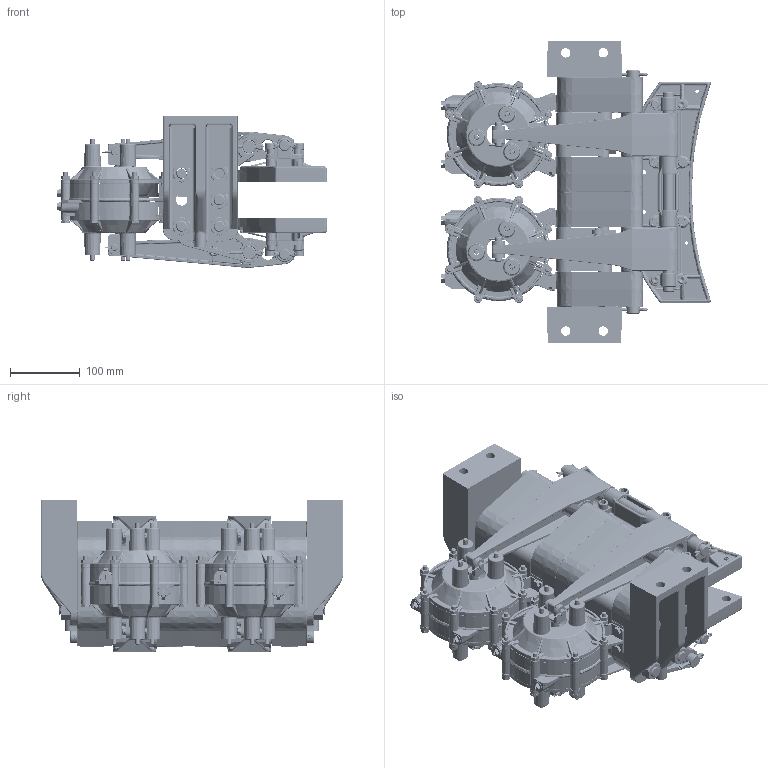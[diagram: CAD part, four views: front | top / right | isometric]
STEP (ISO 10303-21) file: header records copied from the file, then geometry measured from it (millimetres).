
FILE_DESCRIPTION (( 'STEP AP214' ), '1' );
FILE_NAME ('5022-AW.STEP', '2020-11-18T00:04:22', ( '' ), ( '' ), 'SwSTEP 2.0', 'SolidWorks 2019', '' );
FILE_SCHEMA (( 'AUTOMOTIVE_DESIGN' ));
Length unit declared in the file: inch
Products named in the file (1): 5022-AW
Bounding box: 387.29 x 434.29 x 218.8 mm (x, y, z)
Surface area: 1192338.2 mm2 (no closed solid volume)
Topology: 0 solids, 281 shells, 5811 faces, 18312 edges, 12066 vertices
Faces by surface type: cylinder 1632, plane 1542, cone 894, bspline 872, torus 832, sphere 39
Entity records: 390075 total; most frequent: CARTESIAN_POINT 166587, DIRECTION 30162, ORIENTED_EDGE 28957, EDGE_CURVE 18264, AXIS2_PLACEMENT_3D 12233, VERTEX_POINT 12066, CIRCLE 7293, EDGE_LOOP 6274
